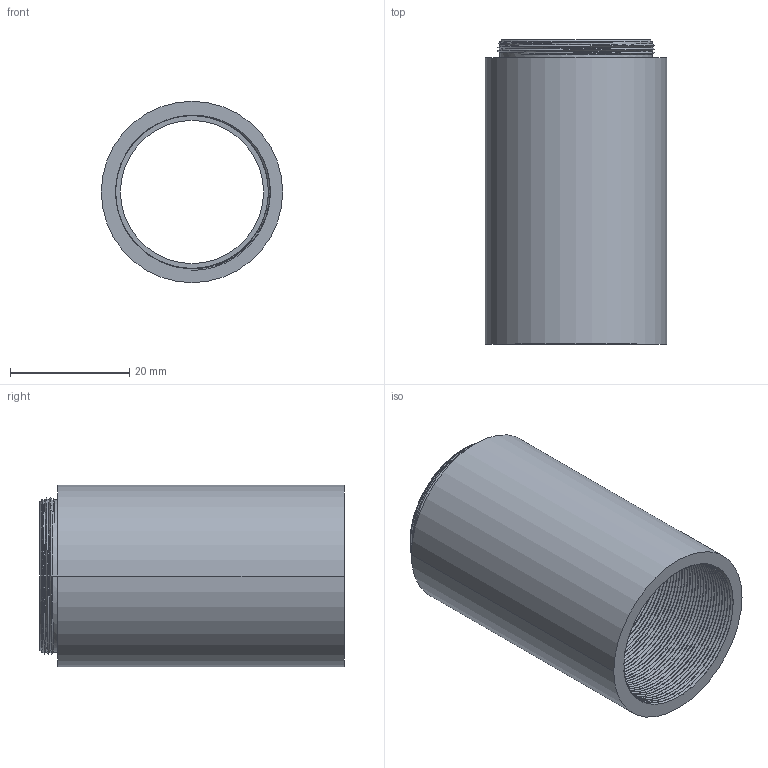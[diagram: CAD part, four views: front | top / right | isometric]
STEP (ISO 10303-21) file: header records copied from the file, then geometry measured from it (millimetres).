
FILE_DESCRIPTION((''),'2;1');
FILE_NAME('CSA-48','2020-10-29T',('Administrator'),(''),'CREO PARAMETRIC BY PTC INC, 2015290','CREO PARAMETRIC BY PTC INC, 2015290','');
FILE_SCHEMA(('CONFIG_CONTROL_DESIGN'));
Length unit declared in the file: millimetre
Products named in the file (1): CSA-48
Bounding box: 30.4 x 51 x 30.4 mm (x, y, z)
Volume: 9795.4 mm3; surface area: 11598.2 mm2
Topology: 1 solids, 1 shells, 211 faces, 595 edges, 389 vertices
Faces by surface type: cylinder 157, bspline 46, plane 6, cone 2
Entity records: 26158 total; most frequent: CARTESIAN_POINT 21526, ORIENTED_EDGE 1190, EDGE_CURVE 595, DIRECTION 574, VERTEX_POINT 389, B_SPLINE_CURVE_WITH_KNOTS 371, EDGE_LOOP 216, FACE_OUTER_BOUND 211
